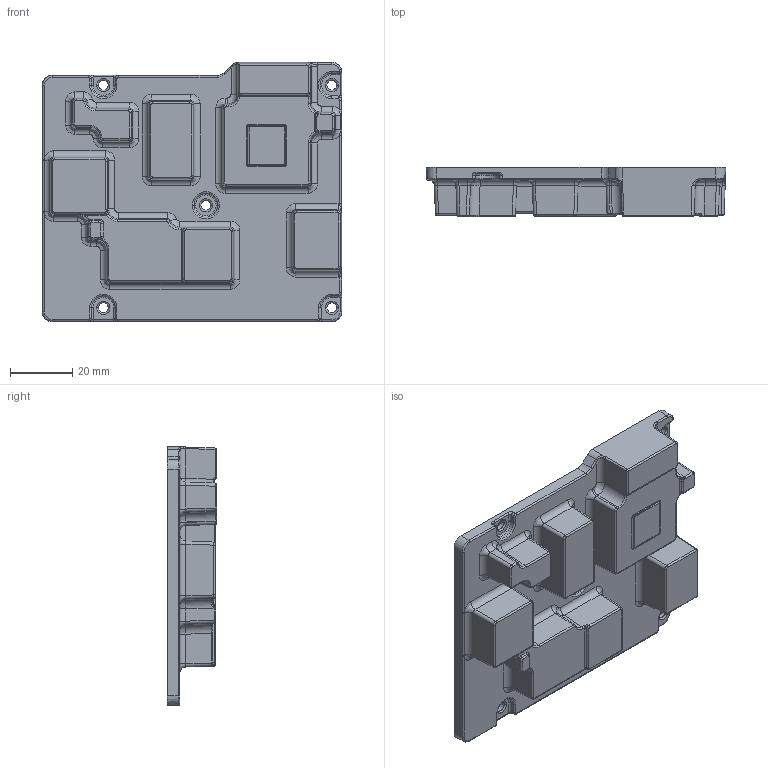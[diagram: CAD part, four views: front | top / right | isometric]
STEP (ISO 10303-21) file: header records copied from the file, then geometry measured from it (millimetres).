
FILE_DESCRIPTION((''),'2;1');
FILE_NAME('HEAT_SPREADER_SBRIO_COMBO','2019-11-20T',('dkendric'),(''),'CREO PARAMETRIC BY PTC INC, 2017480','CREO PARAMETRIC BY PTC INC, 2017480','');
FILE_SCHEMA(('AUTOMOTIVE_DESIGN { 1 0 10303 214 1 1 1 1 }'));
Length unit declared in the file: millimetre
Products named in the file (1): HEAT_SPREADER_SBRIO_COMBO
Bounding box: 96.52 x 15.85 x 83.57 mm (x, y, z)
Volume: 66514.2 mm3; surface area: 22492.5 mm2
Topology: 1 solids, 1 shells, 455 faces, 1048 edges, 599 vertices
Faces by surface type: cylinder 178, bspline 146, plane 71, torus 28, cone 22, sphere 10
Entity records: 20594 total; most frequent: CARTESIAN_POINT 11059, ORIENTED_EDGE 2096, DIRECTION 1744, EDGE_CURVE 1048, AXIS2_PLACEMENT_3D 681, VERTEX_POINT 599, EDGE_LOOP 469, FACE_OUTER_BOUND 455
